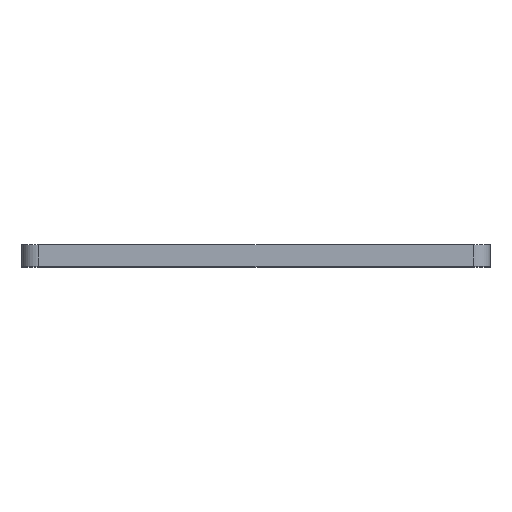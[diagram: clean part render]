
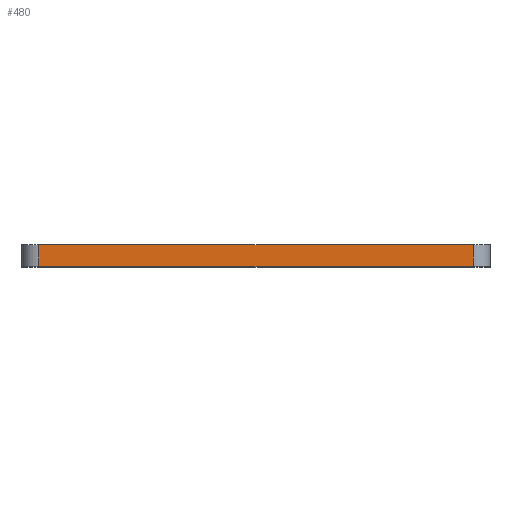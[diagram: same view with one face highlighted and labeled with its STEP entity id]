
A CAD part, top view. The second image highlights one B-rep face of the part: STEP entity #480.
In plain terms, the highlighted planar face has unit normal (0, 0, 1).
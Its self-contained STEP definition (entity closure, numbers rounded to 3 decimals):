
#29 = ORIENTED_EDGE ( 'NONE', *, *, #102, .F. ) ;
#31 = VECTOR ( 'NONE', #279, 1000. ) ;
#40 = LINE ( 'NONE', #45, #228 ) ;
#45 = CARTESIAN_POINT ( 'NONE',  ( 65., 6.5, 100. ) ) ;
#70 = FACE_OUTER_BOUND ( 'NONE', #924, .T. ) ;
#73 = CARTESIAN_POINT ( 'NONE',  ( -70., 6.5, 100. ) ) ;
#74 = DIRECTION ( 'NONE',  ( -1., 0., 0. ) ) ;
#102 = EDGE_CURVE ( 'NONE', #240, #419, #493, .T. ) ;
#127 = CARTESIAN_POINT ( 'NONE',  ( -65., 6.5, 100. ) ) ;
#134 = LINE ( 'NONE', #932, #31 ) ;
#188 = EDGE_CURVE ( 'NONE', #818, #869, #134, .T. ) ;
#191 = PLANE ( 'NONE',  #425 ) ;
#193 = VECTOR ( 'NONE', #286, 1000. ) ;
#198 = LINE ( 'NONE', #127, #193 ) ;
#201 = CARTESIAN_POINT ( 'NONE',  ( -65., 6.5, 100. ) ) ;
#210 = ORIENTED_EDGE ( 'NONE', *, *, #188, .T. ) ;
#228 = VECTOR ( 'NONE', #326, 1000. ) ;
#240 = VERTEX_POINT ( 'NONE', #201 ) ;
#279 = DIRECTION ( 'NONE',  ( 1., 0., 0. ) ) ;
#286 = DIRECTION ( 'NONE',  ( 0., -1., 0. ) ) ;
#319 = ORIENTED_EDGE ( 'NONE', *, *, #678, .T. ) ;
#326 = DIRECTION ( 'NONE',  ( 0., 1., 0. ) ) ;
#343 = CARTESIAN_POINT ( 'NONE',  ( -70., 6.5, 100. ) ) ;
#355 = ORIENTED_EDGE ( 'NONE', *, *, #507, .T. ) ;
#407 = CARTESIAN_POINT ( 'NONE',  ( 65., 6.5, 100. ) ) ;
#419 = VERTEX_POINT ( 'NONE', #407 ) ;
#425 = AXIS2_PLACEMENT_3D ( 'NONE', #343, #702, #74 ) ;
#480 = ADVANCED_FACE ( 'NONE', ( #70 ), #191, .F. ) ;
#493 = LINE ( 'NONE', #73, #919 ) ;
#507 = EDGE_CURVE ( 'NONE', #240, #818, #198, .T. ) ;
#522 = CARTESIAN_POINT ( 'NONE',  ( 65., 0., 100. ) ) ;
#633 = CARTESIAN_POINT ( 'NONE',  ( -65., 0., 100. ) ) ;
#634 = DIRECTION ( 'NONE',  ( 1., 0., 0. ) ) ;
#678 = EDGE_CURVE ( 'NONE', #869, #419, #40, .T. ) ;
#702 = DIRECTION ( 'NONE',  ( 0., 0., -1. ) ) ;
#818 = VERTEX_POINT ( 'NONE', #633 ) ;
#869 = VERTEX_POINT ( 'NONE', #522 ) ;
#919 = VECTOR ( 'NONE', #634, 1000. ) ;
#924 = EDGE_LOOP ( 'NONE', ( #29, #355, #210, #319 ) ) ;
#932 = CARTESIAN_POINT ( 'NONE',  ( -70., 0., 100. ) ) ;
